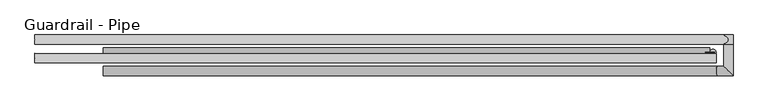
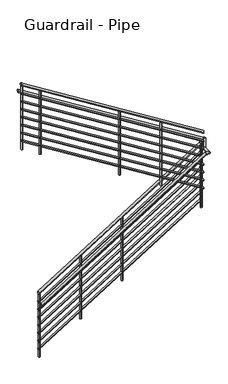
"""IFC4 building model written with IfcOpenShell, lengths in millimetres: railing geometry, Guardrail - Pipe."""

from ifc_helpers import new_model, si_unit, point, frame, frame_2d, origin, place, context, project, spatial, circle_curve, ellipse_curve, trimmed, segment, composite_curve, outline, extrude, faceted_brep, source, transform, mapped, element, save
from ifc_brep_helpers import plane_surface, cylinder_surface, advanced_brep


def guardrail_pipe_d6e5a110(model_context):
    return source(origin(), model_context, "Body", "SolidModel", [
        advanced_brep(
        [(-2631.8939612, 10554.0699505, -2439.0768639), (-2631.8939612, 10515.9699505, -2439.0768639), (-142.6939612, 10554.0699505, -887.367773), (-142.6939612, 10515.9699505, -887.367773)],
        [
            (0, 1, ellipse_curve(frame((-2631.8939612, 10535.0199505, -2439.0768639), z_axis=(-1.0, 0.0, 0.0), x_axis=(0.0, 0.0, -1.0)), 22.4482925, 19.05)),
            (1, 0, ellipse_curve(frame((-2631.8939612, 10535.0199505, -2439.0768639), z_axis=(-1.0, 0.0, 0.0), x_axis=(0.0, 0.0, -1.0)), 22.4482925, 19.05)),
            (2, 3, ellipse_curve(frame((-142.6939612, 10535.0199505, -887.367773), z_axis=(1.0, 0.0, 0.0), x_axis=(0.0, 0.0, -1.0)), 22.4482925, 19.05)),
            (3, 2, ellipse_curve(frame((-142.6939612, 10535.0199505, -887.367773), z_axis=(1.0, 0.0, 0.0), x_axis=(0.0, 0.0, -1.0)), 22.4482925, 19.05)),
            (0, 2),
            (3, 1),
        ],
        [
            plane_surface(frame((-2631.8939612, 10535.0199505, -2416.6285714), z_axis=(-1.0, 0.0, 0.0), x_axis=(0.0, 1.0, 0.0))),
            plane_surface(frame((-142.6939612, 10535.0199505, -864.9194805), z_axis=(1.0, 0.0, 0.0), x_axis=(0.0, 1.0, 0.0))),
            cylinder_surface(frame((-2621.8163602, 10535.0199505, -2432.794723), z_axis=(-0.8486168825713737, 0.0, -0.5290079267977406), x_axis=(0.0, -1.0, 0.0)), 19.05),
        ],
        [
            (0, [[1, 2]]),
            (1, [[3, 4]]),
            (2, [[-1, 5, -4, 6]]),
            (2, [[-2, -6, -3, -5]]),
        ],
    ),
        advanced_brep(
        [(-161.7439612, 10535.0199505, -868.1357143), (-123.6439612, 10535.0199505, -868.1357143), (-161.7439612, 10536.659643, -868.1357143), (-123.6439612, 10536.659643, -868.1357143)],
        [
            (0, 1, circle_curve(frame((-142.6939612, 10535.0199505, -868.1357143), z_axis=(0.0, -1.0, 0.0), x_axis=(1.0, 0.0, 0.0)), 19.05)),
            (1, 0, circle_curve(frame((-142.6939612, 10535.0199505, -868.1357143), z_axis=(0.0, -1.0, 0.0), x_axis=(1.0, 0.0, 0.0)), 19.05)),
            (2, 3, circle_curve(frame((-142.6939612, 10536.659643, -868.1357143), z_axis=(0.0, 1.0, 0.0), x_axis=(1.0, 0.0, 0.0)), 19.05)),
            (3, 2, circle_curve(frame((-142.6939612, 10536.659643, -868.1357143), z_axis=(0.0, 1.0, 0.0), x_axis=(1.0, 0.0, 0.0)), 19.05)),
            (0, 2),
            (3, 1),
        ],
        [
            plane_surface(frame((-142.6939612, 10535.0199505, -849.0857143), z_axis=(0.0, -1.0, 0.0), x_axis=(0.0, 0.0, 1.0))),
            plane_surface(frame((-142.6939612, 10536.659643, -849.0857143), z_axis=(0.0, 1.0, 0.0), x_axis=(0.0, 0.0, 1.0))),
            cylinder_surface(frame((-142.6939612, 10535.0199505, -868.1357143), z_axis=(0.0, -1.0, 0.0), x_axis=(1.0, 0.0, 0.0)), 19.05),
        ],
        [
            (0, [[1, 2]]),
            (1, [[3, 4]]),
            (2, [[-1, 5, -4, 6]]),
            (2, [[-2, -6, -3, -5]]),
        ],
    ),
        advanced_brep(
        [(-117.2939612, 10492.209643, -697.3625782), (-117.2939612, 10530.309643, -697.3625782), (-2911.2939612, 10492.209643, 1044.3517075), (-2911.2939612, 10530.309643, 1044.3517075)],
        [
            (0, 1, ellipse_curve(frame((-117.2939612, 10511.259643, -697.3625782), z_axis=(1.0, 0.0, 0.0), x_axis=(0.0, 0.0, -1.0)), 22.4482925, 19.05)),
            (1, 0, ellipse_curve(frame((-117.2939612, 10511.259643, -697.3625782), z_axis=(1.0, 0.0, 0.0), x_axis=(0.0, 0.0, -1.0)), 22.4482925, 19.05)),
            (2, 3, ellipse_curve(frame((-2911.2939612, 10511.259643, 1044.3517075), z_axis=(-1.0, 0.0, 0.0), x_axis=(0.0, 0.0, -1.0)), 22.4482925, 19.05)),
            (3, 2, ellipse_curve(frame((-2911.2939612, 10511.259643, 1044.3517075), z_axis=(-1.0, 0.0, 0.0), x_axis=(0.0, 0.0, -1.0)), 22.4482925, 19.05)),
            (0, 2),
            (3, 1),
        ],
        [
            plane_surface(frame((-117.2939612, 10511.259643, -674.9142857), z_axis=(1.0, 0.0, 0.0), x_axis=(0.0, -1.0, 0.0))),
            plane_surface(frame((-2911.2939612, 10511.259643, 1066.8), z_axis=(-1.0, 0.0, 0.0), x_axis=(0.0, -1.0, 0.0))),
            cylinder_surface(frame((-127.3715622, 10511.259643, -691.0804373), z_axis=(0.8486168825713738, 0.0, -0.5290079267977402), x_axis=(0.0, 1.0, 0.0)), 19.05),
        ],
        [
            (0, [[1, 2]]),
            (1, [[3, 4]]),
            (2, [[-1, 5, -4, 6]]),
            (2, [[-2, -6, -3, -5]]),
        ],
    ),
        advanced_brep(
        [(-2631.8939612, 10547.7199505, -2583.9940998), (-2631.8939612, 10522.3199505, -2583.9940998), (-142.6939612, 10547.7199505, -1032.2850089), (-142.6939612, 10522.3199505, -1032.2850089)],
        [
            (0, 1, ellipse_curve(frame((-2631.8939612, 10535.0199505, -2583.9940998), z_axis=(-1.0, 0.0, 0.0), x_axis=(0.0, 0.0, -1.0)), 14.9655283, 12.7)),
            (1, 0, ellipse_curve(frame((-2631.8939612, 10535.0199505, -2583.9940998), z_axis=(-1.0, 0.0, 0.0), x_axis=(0.0, 0.0, -1.0)), 14.9655283, 12.7)),
            (2, 3, ellipse_curve(frame((-142.6939612, 10535.0199505, -1032.2850089), z_axis=(1.0, 0.0, 0.0), x_axis=(0.0, 0.0, -1.0)), 14.9655283, 12.7)),
            (3, 2, ellipse_curve(frame((-142.6939612, 10535.0199505, -1032.2850089), z_axis=(1.0, 0.0, 0.0), x_axis=(0.0, 0.0, -1.0)), 14.9655283, 12.7)),
            (0, 2),
            (3, 1),
        ],
        [
            plane_surface(frame((-2631.8939612, 10535.0199505, -2569.0285714), z_axis=(-1.0, 0.0, 0.0), x_axis=(0.0, 1.0, 0.0))),
            plane_surface(frame((-142.6939612, 10535.0199505, -1017.3194805), z_axis=(1.0, 0.0, 0.0), x_axis=(0.0, 1.0, 0.0))),
            cylinder_surface(frame((-2625.1755605, 10535.0199505, -2579.8060058), z_axis=(-0.8486168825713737, 0.0, -0.5290079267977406), x_axis=(0.0, -1.0, 0.0)), 12.7),
        ],
        [
            (0, [[1, 2]]),
            (1, [[3, 4]]),
            (2, [[-1, 5, -4, 6]]),
            (2, [[-2, -6, -3, -5]]),
        ],
    ),
        advanced_brep(
        [(-155.3939612, 10535.0199505, -1014.1857143), (-129.9939612, 10535.0199505, -1014.1857143), (-155.3939612, 10536.659643, -1014.1857143), (-129.9939612, 10536.659643, -1014.1857143)],
        [
            (0, 1, circle_curve(frame((-142.6939612, 10535.0199505, -1014.1857143), z_axis=(0.0, -1.0, 0.0), x_axis=(1.0, 0.0, 0.0)), 12.7)),
            (1, 0, circle_curve(frame((-142.6939612, 10535.0199505, -1014.1857143), z_axis=(0.0, -1.0, 0.0), x_axis=(1.0, 0.0, 0.0)), 12.7)),
            (2, 3, circle_curve(frame((-142.6939612, 10536.659643, -1014.1857143), z_axis=(0.0, 1.0, 0.0), x_axis=(1.0, 0.0, 0.0)), 12.7)),
            (3, 2, circle_curve(frame((-142.6939612, 10536.659643, -1014.1857143), z_axis=(0.0, 1.0, 0.0), x_axis=(1.0, 0.0, 0.0)), 12.7)),
            (0, 2),
            (3, 1),
        ],
        [
            plane_surface(frame((-142.6939612, 10535.0199505, -1001.4857143), z_axis=(0.0, -1.0, 0.0), x_axis=(0.0, 0.0, 1.0))),
            plane_surface(frame((-142.6939612, 10536.659643, -1001.4857143), z_axis=(0.0, 1.0, 0.0), x_axis=(0.0, 0.0, 1.0))),
            cylinder_surface(frame((-142.6939612, 10535.0199505, -1014.1857143), z_axis=(0.0, -1.0, 0.0), x_axis=(1.0, 0.0, 0.0)), 12.7),
        ],
        [
            (0, [[1, 2]]),
            (1, [[3, 4]]),
            (2, [[-1, 5, -4, 6]]),
            (2, [[-2, -6, -3, -5]]),
        ],
    ),
        advanced_brep(
        [(-117.2939612, 10498.559643, -842.279814), (-117.2939612, 10523.959643, -842.279814), (-2911.2939612, 10498.559643, 899.4344717), (-2911.2939612, 10523.959643, 899.4344717)],
        [
            (0, 1, ellipse_curve(frame((-117.2939612, 10511.259643, -842.279814), z_axis=(1.0, 0.0, 0.0), x_axis=(0.0, 0.0, -1.0)), 14.9655283, 12.7)),
            (1, 0, ellipse_curve(frame((-117.2939612, 10511.259643, -842.279814), z_axis=(1.0, 0.0, 0.0), x_axis=(0.0, 0.0, -1.0)), 14.9655283, 12.7)),
            (2, 3, ellipse_curve(frame((-2911.2939612, 10511.259643, 899.4344717), z_axis=(-1.0, 0.0, 0.0), x_axis=(0.0, 0.0, -1.0)), 14.9655283, 12.7)),
            (3, 2, ellipse_curve(frame((-2911.2939612, 10511.259643, 899.4344717), z_axis=(-1.0, 0.0, 0.0), x_axis=(0.0, 0.0, -1.0)), 14.9655283, 12.7)),
            (0, 2),
            (3, 1),
        ],
        [
            plane_surface(frame((-117.2939612, 10511.259643, -827.3142857), z_axis=(1.0, 0.0, 0.0), x_axis=(0.0, -1.0, 0.0))),
            plane_surface(frame((-2911.2939612, 10511.259643, 914.4), z_axis=(-1.0, 0.0, 0.0), x_axis=(0.0, -1.0, 0.0))),
            cylinder_surface(frame((-124.0123619, 10511.259643, -838.0917201), z_axis=(0.8486168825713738, 0.0, -0.5290079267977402), x_axis=(0.0, 1.0, 0.0)), 12.7),
        ],
        [
            (0, [[1, 2]]),
            (1, [[3, 4]]),
            (2, [[-1, 5, -4, 6]]),
            (2, [[-2, -6, -3, -5]]),
        ],
    ),
        advanced_brep(
        [(-2631.8939612, 10477.8699505, -2591.4768639), (-2631.8939612, 10439.7699505, -2591.4768639), (-111.8425336, 10477.8699505, -1020.5357143), (-111.8425336, 10439.7699505, -1020.5357143), (-85.5439612, 10477.8699505, -1020.5357143), (-47.4439612, 10439.7699505, -1020.5357143), (-85.5439612, 10587.459643, -1020.5357143), (-47.4439612, 10587.459643, -1020.5357143)],
        [
            (0, 1, ellipse_curve(frame((-2631.8939612, 10458.8199505, -2591.4768639), z_axis=(-1.0, 0.0, 0.0), x_axis=(0.0, 0.0, -1.0)), 22.4482925, 19.05)),
            (1, 0, ellipse_curve(frame((-2631.8939612, 10458.8199505, -2591.4768639), z_axis=(-1.0, 0.0, 0.0), x_axis=(0.0, 0.0, -1.0)), 22.4482925, 19.05)),
            (0, 2),
            (2, 3, ellipse_curve(frame((-111.8425336, 10458.8199505, -1020.5357143), z_axis=(-0.9614096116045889, 0.0, -0.275120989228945), x_axis=(0.27512098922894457, 0.0, -0.9614096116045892)), 19.8146552, 19.05)),
            (3, 1),
            (3, 2, ellipse_curve(frame((-111.8425336, 10458.8199505, -1020.5357143), z_axis=(-0.9614096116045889, 0.0, -0.275120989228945), x_axis=(0.27512098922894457, 0.0, -0.9614096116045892)), 19.8146552, 19.05)),
            (2, 4),
            (4, 5, ellipse_curve(frame((-66.4939612, 10458.8199505, -1020.5357143), z_axis=(-0.7071067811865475, -0.7071067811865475, 0.0), x_axis=(-0.7071067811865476, 0.7071067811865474, 0.0)), 26.9407684, 19.05)),
            (5, 3),
            (5, 4, ellipse_curve(frame((-66.4939612, 10458.8199505, -1020.5357143), z_axis=(-0.7071067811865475, -0.7071067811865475, 0.0), x_axis=(-0.7071067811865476, 0.7071067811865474, 0.0)), 26.9407684, 19.05)),
            (6, 7, circle_curve(frame((-66.4939612, 10587.459643, -1020.5357143), z_axis=(0.0, 1.0, 0.0), x_axis=(1.0, 0.0, 0.0)), 19.05)),
            (7, 6, circle_curve(frame((-66.4939612, 10587.459643, -1020.5357143), z_axis=(0.0, 1.0, 0.0), x_axis=(1.0, 0.0, 0.0)), 19.05)),
            (4, 6),
            (7, 5),
        ],
        [
            plane_surface(frame((-2631.8939612, 10458.8199505, -2569.0285714), z_axis=(-1.0, 0.0, 0.0), x_axis=(0.0, 1.0, 0.0))),
            cylinder_surface(frame((-2621.8163602, 10458.8199505, -2585.194723), z_axis=(-0.8486168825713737, 0.0, -0.5290079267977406), x_axis=(0.0, -1.0, 0.0)), 19.05),
            cylinder_surface(frame((-117.2939612, 10458.8199505, -1020.5357143), z_axis=(-1.0, 0.0, 0.0), x_axis=(0.0, -1.0, 0.0)), 19.05),
            plane_surface(frame((-66.4939612, 10587.459643, -1001.4857143), z_axis=(0.0, 1.0, 0.0), x_axis=(0.0, 0.0, 1.0))),
            cylinder_surface(frame((-66.4939612, 10458.8199505, -1020.5357143), z_axis=(0.0, -1.0, 0.0), x_axis=(1.0, 0.0, 0.0)), 19.05),
        ],
        [
            (0, [[1, 2]]),
            (1, [[-1, 3, 4, 5]]),
            (1, [[-2, -5, 6, -3]]),
            (2, [[-4, 7, 8, 9]]),
            (2, [[-6, -9, 10, -7]]),
            (3, [[11, 12]]),
            (4, [[-8, 13, -12, 14]]),
            (4, [[-10, -14, -11, -13]]),
        ],
    ),
        faceted_brep([(-85.5439612, 10606.509643, -1039.5857143), (-47.4439612, 10606.509643, -1039.5857143), (-47.4439612, 10568.409643, -1039.5857143), (-85.5439612, 10568.409643, -1039.5857143), (-85.5439612, 10606.509643, -858.9818182), (-85.5439612, 10568.409643, -858.9818182), (-47.4439612, 10568.409643, -858.9818182), (-47.4439612, 10606.509643, -858.9818182)], [[[0, 1, 2, 3]], [[4, 5, 6, 7]], [[1, 0, 4, 7]], [[2, 1, 7, 6]], [[3, 2, 6, 5]], [[0, 3, 5, 4]]]),
        advanced_brep(
        [(-66.4939612, 10568.409643, -881.4301107), (-66.4939612, 10606.509643, -881.4301107), (-2911.2939612, 10568.409643, 891.9517075), (-2911.2939612, 10606.509643, 891.9517075)],
        [
            (0, 1, ellipse_curve(frame((-66.4939612, 10587.459643, -881.4301107), z_axis=(1.0, 0.0, 0.0), x_axis=(0.0, 0.0, -1.0)), 22.4482925, 19.05)),
            (1, 0, ellipse_curve(frame((-66.4939612, 10587.459643, -881.4301107), z_axis=(1.0, 0.0, 0.0), x_axis=(0.0, 0.0, -1.0)), 22.4482925, 19.05)),
            (2, 3, ellipse_curve(frame((-2911.2939612, 10587.459643, 891.9517075), z_axis=(-1.0, 0.0, 0.0), x_axis=(0.0, 0.0, -1.0)), 22.4482925, 19.05)),
            (3, 2, ellipse_curve(frame((-2911.2939612, 10587.459643, 891.9517075), z_axis=(-1.0, 0.0, 0.0), x_axis=(0.0, 0.0, -1.0)), 22.4482925, 19.05)),
            (0, 2),
            (3, 1),
        ],
        [
            plane_surface(frame((-66.4939612, 10587.459643, -858.9818182), z_axis=(1.0, 0.0, 0.0), x_axis=(0.0, -1.0, 0.0))),
            plane_surface(frame((-2911.2939612, 10587.459643, 914.4), z_axis=(-1.0, 0.0, 0.0), x_axis=(0.0, -1.0, 0.0))),
            cylinder_surface(frame((-76.5715622, 10587.459643, -875.1479698), z_axis=(0.8486168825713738, 0.0, -0.5290079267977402), x_axis=(0.0, 1.0, 0.0)), 19.05),
        ],
        [
            (0, [[1, 2]]),
            (1, [[3, 4]]),
            (2, [[-1, 5, -4, 6]]),
            (2, [[-2, -6, -3, -5]]),
        ],
    ),
        advanced_brep(
        [(-2631.8939612, 10547.7199505, -2710.9940998), (-2631.8939612, 10522.3199505, -2710.9940998), (-142.6939612, 10547.7199505, -1159.2850089), (-142.6939612, 10522.3199505, -1159.2850089)],
        [
            (0, 1, ellipse_curve(frame((-2631.8939612, 10535.0199505, -2710.9940998), z_axis=(-1.0, 0.0, 0.0), x_axis=(0.0, 0.0, -1.0)), 14.9655283, 12.7)),
            (1, 0, ellipse_curve(frame((-2631.8939612, 10535.0199505, -2710.9940998), z_axis=(-1.0, 0.0, 0.0), x_axis=(0.0, 0.0, -1.0)), 14.9655283, 12.7)),
            (2, 3, ellipse_curve(frame((-142.6939612, 10535.0199505, -1159.2850089), z_axis=(1.0, 0.0, 0.0), x_axis=(0.0, 0.0, -1.0)), 14.9655283, 12.7)),
            (3, 2, ellipse_curve(frame((-142.6939612, 10535.0199505, -1159.2850089), z_axis=(1.0, 0.0, 0.0), x_axis=(0.0, 0.0, -1.0)), 14.9655283, 12.7)),
            (0, 2),
            (3, 1),
        ],
        [
            plane_surface(frame((-2631.8939612, 10535.0199505, -2696.0285714), z_axis=(-1.0, 0.0, 0.0), x_axis=(0.0, 1.0, 0.0))),
            plane_surface(frame((-142.6939612, 10535.0199505, -1144.3194805), z_axis=(1.0, 0.0, 0.0), x_axis=(0.0, 1.0, 0.0))),
            cylinder_surface(frame((-2625.1755605, 10535.0199505, -2706.8060058), z_axis=(-0.8486168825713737, 0.0, -0.5290079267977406), x_axis=(0.0, -1.0, 0.0)), 12.7),
        ],
        [
            (0, [[1, 2]]),
            (1, [[3, 4]]),
            (2, [[-1, 5, -4, 6]]),
            (2, [[-2, -6, -3, -5]]),
        ],
    ),
        advanced_brep(
        [(-155.3939612, 10535.0199505, -1141.1857143), (-129.9939612, 10535.0199505, -1141.1857143), (-155.3939612, 10536.659643, -1141.1857143), (-129.9939612, 10536.659643, -1141.1857143)],
        [
            (0, 1, circle_curve(frame((-142.6939612, 10535.0199505, -1141.1857143), z_axis=(0.0, -1.0, 0.0), x_axis=(1.0, 0.0, 0.0)), 12.7)),
            (1, 0, circle_curve(frame((-142.6939612, 10535.0199505, -1141.1857143), z_axis=(0.0, -1.0, 0.0), x_axis=(1.0, 0.0, 0.0)), 12.7)),
            (2, 3, circle_curve(frame((-142.6939612, 10536.659643, -1141.1857143), z_axis=(0.0, 1.0, 0.0), x_axis=(1.0, 0.0, 0.0)), 12.7)),
            (3, 2, circle_curve(frame((-142.6939612, 10536.659643, -1141.1857143), z_axis=(0.0, 1.0, 0.0), x_axis=(1.0, 0.0, 0.0)), 12.7)),
            (0, 2),
            (3, 1),
        ],
        [
            plane_surface(frame((-142.6939612, 10535.0199505, -1128.4857143), z_axis=(0.0, -1.0, 0.0), x_axis=(0.0, 0.0, 1.0))),
            plane_surface(frame((-142.6939612, 10536.659643, -1128.4857143), z_axis=(0.0, 1.0, 0.0), x_axis=(0.0, 0.0, 1.0))),
            cylinder_surface(frame((-142.6939612, 10535.0199505, -1141.1857143), z_axis=(0.0, -1.0, 0.0), x_axis=(1.0, 0.0, 0.0)), 12.7),
        ],
        [
            (0, [[1, 2]]),
            (1, [[3, 4]]),
            (2, [[-1, 5, -4, 6]]),
            (2, [[-2, -6, -3, -5]]),
        ],
    ),
        advanced_brep(
        [(-117.2939612, 10498.559643, -969.279814), (-117.2939612, 10523.959643, -969.279814), (-2911.2939612, 10498.559643, 772.4344717), (-2911.2939612, 10523.959643, 772.4344717)],
        [
            (0, 1, ellipse_curve(frame((-117.2939612, 10511.259643, -969.279814), z_axis=(1.0, 0.0, 0.0), x_axis=(0.0, 0.0, -1.0)), 14.9655283, 12.7)),
            (1, 0, ellipse_curve(frame((-117.2939612, 10511.259643, -969.279814), z_axis=(1.0, 0.0, 0.0), x_axis=(0.0, 0.0, -1.0)), 14.9655283, 12.7)),
            (2, 3, ellipse_curve(frame((-2911.2939612, 10511.259643, 772.4344717), z_axis=(-1.0, 0.0, 0.0), x_axis=(0.0, 0.0, -1.0)), 14.9655283, 12.7)),
            (3, 2, ellipse_curve(frame((-2911.2939612, 10511.259643, 772.4344717), z_axis=(-1.0, 0.0, 0.0), x_axis=(0.0, 0.0, -1.0)), 14.9655283, 12.7)),
            (0, 2),
            (3, 1),
        ],
        [
            plane_surface(frame((-117.2939612, 10511.259643, -954.3142857), z_axis=(1.0, 0.0, 0.0), x_axis=(0.0, -1.0, 0.0))),
            plane_surface(frame((-2911.2939612, 10511.259643, 787.4), z_axis=(-1.0, 0.0, 0.0), x_axis=(0.0, -1.0, 0.0))),
            cylinder_surface(frame((-124.0123619, 10511.259643, -965.0917201), z_axis=(0.8486168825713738, 0.0, -0.5290079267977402), x_axis=(0.0, 1.0, 0.0)), 12.7),
        ],
        [
            (0, [[1, 2]]),
            (1, [[3, 4]]),
            (2, [[-1, 5, -4, 6]]),
            (2, [[-2, -6, -3, -5]]),
        ],
    ),
        advanced_brep(
        [(-2631.8939612, 10547.7199505, -2837.9940998), (-2631.8939612, 10522.3199505, -2837.9940998), (-142.6939612, 10547.7199505, -1286.2850089), (-142.6939612, 10522.3199505, -1286.2850089)],
        [
            (0, 1, ellipse_curve(frame((-2631.8939612, 10535.0199505, -2837.9940998), z_axis=(-1.0, 0.0, 0.0), x_axis=(0.0, 0.0, -1.0)), 14.9655283, 12.7)),
            (1, 0, ellipse_curve(frame((-2631.8939612, 10535.0199505, -2837.9940998), z_axis=(-1.0, 0.0, 0.0), x_axis=(0.0, 0.0, -1.0)), 14.9655283, 12.7)),
            (2, 3, ellipse_curve(frame((-142.6939612, 10535.0199505, -1286.2850089), z_axis=(1.0, 0.0, 0.0), x_axis=(0.0, 0.0, -1.0)), 14.9655283, 12.7)),
            (3, 2, ellipse_curve(frame((-142.6939612, 10535.0199505, -1286.2850089), z_axis=(1.0, 0.0, 0.0), x_axis=(0.0, 0.0, -1.0)), 14.9655283, 12.7)),
            (0, 2),
            (3, 1),
        ],
        [
            plane_surface(frame((-2631.8939612, 10535.0199505, -2823.0285714), z_axis=(-1.0, 0.0, 0.0), x_axis=(0.0, 1.0, 0.0))),
            plane_surface(frame((-142.6939612, 10535.0199505, -1271.3194805), z_axis=(1.0, 0.0, 0.0), x_axis=(0.0, 1.0, 0.0))),
            cylinder_surface(frame((-2625.1755605, 10535.0199505, -2833.8060058), z_axis=(-0.8486168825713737, 0.0, -0.5290079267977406), x_axis=(0.0, -1.0, 0.0)), 12.7),
        ],
        [
            (0, [[1, 2]]),
            (1, [[3, 4]]),
            (2, [[-1, 5, -4, 6]]),
            (2, [[-2, -6, -3, -5]]),
        ],
    ),
        advanced_brep(
        [(-155.3939612, 10535.0199505, -1268.1857143), (-129.9939612, 10535.0199505, -1268.1857143), (-155.3939612, 10536.659643, -1268.1857143), (-129.9939612, 10536.659643, -1268.1857143)],
        [
            (0, 1, circle_curve(frame((-142.6939612, 10535.0199505, -1268.1857143), z_axis=(0.0, -1.0, 0.0), x_axis=(1.0, 0.0, 0.0)), 12.7)),
            (1, 0, circle_curve(frame((-142.6939612, 10535.0199505, -1268.1857143), z_axis=(0.0, -1.0, 0.0), x_axis=(1.0, 0.0, 0.0)), 12.7)),
            (2, 3, circle_curve(frame((-142.6939612, 10536.659643, -1268.1857143), z_axis=(0.0, 1.0, 0.0), x_axis=(1.0, 0.0, 0.0)), 12.7)),
            (3, 2, circle_curve(frame((-142.6939612, 10536.659643, -1268.1857143), z_axis=(0.0, 1.0, 0.0), x_axis=(1.0, 0.0, 0.0)), 12.7)),
            (0, 2),
            (3, 1),
        ],
        [
            plane_surface(frame((-142.6939612, 10535.0199505, -1255.4857143), z_axis=(0.0, -1.0, 0.0), x_axis=(0.0, 0.0, 1.0))),
            plane_surface(frame((-142.6939612, 10536.659643, -1255.4857143), z_axis=(0.0, 1.0, 0.0), x_axis=(0.0, 0.0, 1.0))),
            cylinder_surface(frame((-142.6939612, 10535.0199505, -1268.1857143), z_axis=(0.0, -1.0, 0.0), x_axis=(1.0, 0.0, 0.0)), 12.7),
        ],
        [
            (0, [[1, 2]]),
            (1, [[3, 4]]),
            (2, [[-1, 5, -4, 6]]),
            (2, [[-2, -6, -3, -5]]),
        ],
    ),
        advanced_brep(
        [(-117.2939612, 10498.559643, -1096.279814), (-117.2939612, 10523.959643, -1096.279814), (-2911.2939612, 10498.559643, 645.4344717), (-2911.2939612, 10523.959643, 645.4344717)],
        [
            (0, 1, ellipse_curve(frame((-117.2939612, 10511.259643, -1096.279814), z_axis=(1.0, 0.0, 0.0), x_axis=(0.0, 0.0, -1.0)), 14.9655283, 12.7)),
            (1, 0, ellipse_curve(frame((-117.2939612, 10511.259643, -1096.279814), z_axis=(1.0, 0.0, 0.0), x_axis=(0.0, 0.0, -1.0)), 14.9655283, 12.7)),
            (2, 3, ellipse_curve(frame((-2911.2939612, 10511.259643, 645.4344717), z_axis=(-1.0, 0.0, 0.0), x_axis=(0.0, 0.0, -1.0)), 14.9655283, 12.7)),
            (3, 2, ellipse_curve(frame((-2911.2939612, 10511.259643, 645.4344717), z_axis=(-1.0, 0.0, 0.0), x_axis=(0.0, 0.0, -1.0)), 14.9655283, 12.7)),
            (0, 2),
            (3, 1),
        ],
        [
            plane_surface(frame((-117.2939612, 10511.259643, -1081.3142857), z_axis=(1.0, 0.0, 0.0), x_axis=(0.0, -1.0, 0.0))),
            plane_surface(frame((-2911.2939612, 10511.259643, 660.4), z_axis=(-1.0, 0.0, 0.0), x_axis=(0.0, -1.0, 0.0))),
            cylinder_surface(frame((-124.0123619, 10511.259643, -1092.0917201), z_axis=(0.8486168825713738, 0.0, -0.5290079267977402), x_axis=(0.0, 1.0, 0.0)), 12.7),
        ],
        [
            (0, [[1, 2]]),
            (1, [[3, 4]]),
            (2, [[-1, 5, -4, 6]]),
            (2, [[-2, -6, -3, -5]]),
        ],
    ),
        advanced_brep(
        [(-2631.8939612, 10547.7199505, -2964.9940998), (-2631.8939612, 10522.3199505, -2964.9940998), (-142.6939612, 10547.7199505, -1413.2850089), (-142.6939612, 10522.3199505, -1413.2850089)],
        [
            (0, 1, ellipse_curve(frame((-2631.8939612, 10535.0199505, -2964.9940998), z_axis=(-1.0, 0.0, 0.0), x_axis=(0.0, 0.0, -1.0)), 14.9655283, 12.7)),
            (1, 0, ellipse_curve(frame((-2631.8939612, 10535.0199505, -2964.9940998), z_axis=(-1.0, 0.0, 0.0), x_axis=(0.0, 0.0, -1.0)), 14.9655283, 12.7)),
            (2, 3, ellipse_curve(frame((-142.6939612, 10535.0199505, -1413.2850089), z_axis=(1.0, 0.0, 0.0), x_axis=(0.0, 0.0, -1.0)), 14.9655283, 12.7)),
            (3, 2, ellipse_curve(frame((-142.6939612, 10535.0199505, -1413.2850089), z_axis=(1.0, 0.0, 0.0), x_axis=(0.0, 0.0, -1.0)), 14.9655283, 12.7)),
            (0, 2),
            (3, 1),
        ],
        [
            plane_surface(frame((-2631.8939612, 10535.0199505, -2950.0285714), z_axis=(-1.0, 0.0, 0.0), x_axis=(0.0, 1.0, 0.0))),
            plane_surface(frame((-142.6939612, 10535.0199505, -1398.3194805), z_axis=(1.0, 0.0, 0.0), x_axis=(0.0, 1.0, 0.0))),
            cylinder_surface(frame((-2625.1755605, 10535.0199505, -2960.8060058), z_axis=(-0.8486168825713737, 0.0, -0.5290079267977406), x_axis=(0.0, -1.0, 0.0)), 12.7),
        ],
        [
            (0, [[1, 2]]),
            (1, [[3, 4]]),
            (2, [[-1, 5, -4, 6]]),
            (2, [[-2, -6, -3, -5]]),
        ],
    ),
        advanced_brep(
        [(-155.3939612, 10535.0199505, -1395.1857143), (-129.9939612, 10535.0199505, -1395.1857143), (-155.3939612, 10536.659643, -1395.1857143), (-129.9939612, 10536.659643, -1395.1857143)],
        [
            (0, 1, circle_curve(frame((-142.6939612, 10535.0199505, -1395.1857143), z_axis=(0.0, -1.0, 0.0), x_axis=(1.0, 0.0, 0.0)), 12.7)),
            (1, 0, circle_curve(frame((-142.6939612, 10535.0199505, -1395.1857143), z_axis=(0.0, -1.0, 0.0), x_axis=(1.0, 0.0, 0.0)), 12.7)),
            (2, 3, circle_curve(frame((-142.6939612, 10536.659643, -1395.1857143), z_axis=(0.0, 1.0, 0.0), x_axis=(1.0, 0.0, 0.0)), 12.7)),
            (3, 2, circle_curve(frame((-142.6939612, 10536.659643, -1395.1857143), z_axis=(0.0, 1.0, 0.0), x_axis=(1.0, 0.0, 0.0)), 12.7)),
            (0, 2),
            (3, 1),
        ],
        [
            plane_surface(frame((-142.6939612, 10535.0199505, -1382.4857143), z_axis=(0.0, -1.0, 0.0), x_axis=(0.0, 0.0, 1.0))),
            plane_surface(frame((-142.6939612, 10536.659643, -1382.4857143), z_axis=(0.0, 1.0, 0.0), x_axis=(0.0, 0.0, 1.0))),
            cylinder_surface(frame((-142.6939612, 10535.0199505, -1395.1857143), z_axis=(0.0, -1.0, 0.0), x_axis=(1.0, 0.0, 0.0)), 12.7),
        ],
        [
            (0, [[1, 2]]),
            (1, [[3, 4]]),
            (2, [[-1, 5, -4, 6]]),
            (2, [[-2, -6, -3, -5]]),
        ],
    ),
        advanced_brep(
        [(-117.2939612, 10498.559643, -1223.279814), (-117.2939612, 10523.959643, -1223.279814), (-2911.2939612, 10498.559643, 518.4344717), (-2911.2939612, 10523.959643, 518.4344717)],
        [
            (0, 1, ellipse_curve(frame((-117.2939612, 10511.259643, -1223.279814), z_axis=(1.0, 0.0, 0.0), x_axis=(0.0, 0.0, -1.0)), 14.9655283, 12.7)),
            (1, 0, ellipse_curve(frame((-117.2939612, 10511.259643, -1223.279814), z_axis=(1.0, 0.0, 0.0), x_axis=(0.0, 0.0, -1.0)), 14.9655283, 12.7)),
            (2, 3, ellipse_curve(frame((-2911.2939612, 10511.259643, 518.4344717), z_axis=(-1.0, 0.0, 0.0), x_axis=(0.0, 0.0, -1.0)), 14.9655283, 12.7)),
            (3, 2, ellipse_curve(frame((-2911.2939612, 10511.259643, 518.4344717), z_axis=(-1.0, 0.0, 0.0), x_axis=(0.0, 0.0, -1.0)), 14.9655283, 12.7)),
            (0, 2),
            (3, 1),
        ],
        [
            plane_surface(frame((-117.2939612, 10511.259643, -1208.3142857), z_axis=(1.0, 0.0, 0.0), x_axis=(0.0, -1.0, 0.0))),
            plane_surface(frame((-2911.2939612, 10511.259643, 533.4), z_axis=(-1.0, 0.0, 0.0), x_axis=(0.0, -1.0, 0.0))),
            cylinder_surface(frame((-124.0123619, 10511.259643, -1219.0917201), z_axis=(0.8486168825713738, 0.0, -0.5290079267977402), x_axis=(0.0, 1.0, 0.0)), 12.7),
        ],
        [
            (0, [[1, 2]]),
            (1, [[3, 4]]),
            (2, [[-1, 5, -4, 6]]),
            (2, [[-2, -6, -3, -5]]),
        ],
    ),
        advanced_brep(
        [(-2631.8939612, 10547.7199505, -3091.9940998), (-2631.8939612, 10522.3199505, -3091.9940998), (-142.6939612, 10547.7199505, -1540.2850089), (-142.6939612, 10522.3199505, -1540.2850089)],
        [
            (0, 1, ellipse_curve(frame((-2631.8939612, 10535.0199505, -3091.9940998), z_axis=(-1.0, 0.0, 0.0), x_axis=(0.0, 0.0, -1.0)), 14.9655283, 12.7)),
            (1, 0, ellipse_curve(frame((-2631.8939612, 10535.0199505, -3091.9940998), z_axis=(-1.0, 0.0, 0.0), x_axis=(0.0, 0.0, -1.0)), 14.9655283, 12.7)),
            (2, 3, ellipse_curve(frame((-142.6939612, 10535.0199505, -1540.2850089), z_axis=(1.0, 0.0, 0.0), x_axis=(0.0, 0.0, -1.0)), 14.9655283, 12.7)),
            (3, 2, ellipse_curve(frame((-142.6939612, 10535.0199505, -1540.2850089), z_axis=(1.0, 0.0, 0.0), x_axis=(0.0, 0.0, -1.0)), 14.9655283, 12.7)),
            (0, 2),
            (3, 1),
        ],
        [
            plane_surface(frame((-2631.8939612, 10535.0199505, -3077.0285714), z_axis=(-1.0, 0.0, 0.0), x_axis=(0.0, 1.0, 0.0))),
            plane_surface(frame((-142.6939612, 10535.0199505, -1525.3194805), z_axis=(1.0, 0.0, 0.0), x_axis=(0.0, 1.0, 0.0))),
            cylinder_surface(frame((-2625.1755605, 10535.0199505, -3087.8060058), z_axis=(-0.8486168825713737, 0.0, -0.5290079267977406), x_axis=(0.0, -1.0, 0.0)), 12.7),
        ],
        [
            (0, [[1, 2]]),
            (1, [[3, 4]]),
            (2, [[-1, 5, -4, 6]]),
            (2, [[-2, -6, -3, -5]]),
        ],
    ),
        advanced_brep(
        [(-155.3939612, 10535.0199505, -1522.1857143), (-129.9939612, 10535.0199505, -1522.1857143), (-155.3939612, 10536.659643, -1522.1857143), (-129.9939612, 10536.659643, -1522.1857143)],
        [
            (0, 1, circle_curve(frame((-142.6939612, 10535.0199505, -1522.1857143), z_axis=(0.0, -1.0, 0.0), x_axis=(1.0, 0.0, 0.0)), 12.7)),
            (1, 0, circle_curve(frame((-142.6939612, 10535.0199505, -1522.1857143), z_axis=(0.0, -1.0, 0.0), x_axis=(1.0, 0.0, 0.0)), 12.7)),
            (2, 3, circle_curve(frame((-142.6939612, 10536.659643, -1522.1857143), z_axis=(0.0, 1.0, 0.0), x_axis=(1.0, 0.0, 0.0)), 12.7)),
            (3, 2, circle_curve(frame((-142.6939612, 10536.659643, -1522.1857143), z_axis=(0.0, 1.0, 0.0), x_axis=(1.0, 0.0, 0.0)), 12.7)),
            (0, 2),
            (3, 1),
        ],
        [
            plane_surface(frame((-142.6939612, 10535.0199505, -1509.4857143), z_axis=(0.0, -1.0, 0.0), x_axis=(0.0, 0.0, 1.0))),
            plane_surface(frame((-142.6939612, 10536.659643, -1509.4857143), z_axis=(0.0, 1.0, 0.0), x_axis=(0.0, 0.0, 1.0))),
            cylinder_surface(frame((-142.6939612, 10535.0199505, -1522.1857143), z_axis=(0.0, -1.0, 0.0), x_axis=(1.0, 0.0, 0.0)), 12.7),
        ],
        [
            (0, [[1, 2]]),
            (1, [[3, 4]]),
            (2, [[-1, 5, -4, 6]]),
            (2, [[-2, -6, -3, -5]]),
        ],
    ),
        advanced_brep(
        [(-117.2939612, 10498.559643, -1350.279814), (-117.2939612, 10523.959643, -1350.279814), (-2911.2939612, 10498.559643, 391.4344717), (-2911.2939612, 10523.959643, 391.4344717)],
        [
            (0, 1, ellipse_curve(frame((-117.2939612, 10511.259643, -1350.279814), z_axis=(1.0, 0.0, 0.0), x_axis=(0.0, 0.0, -1.0)), 14.9655283, 12.7)),
            (1, 0, ellipse_curve(frame((-117.2939612, 10511.259643, -1350.279814), z_axis=(1.0, 0.0, 0.0), x_axis=(0.0, 0.0, -1.0)), 14.9655283, 12.7)),
            (2, 3, ellipse_curve(frame((-2911.2939612, 10511.259643, 391.4344717), z_axis=(-1.0, 0.0, 0.0), x_axis=(0.0, 0.0, -1.0)), 14.9655283, 12.7)),
            (3, 2, ellipse_curve(frame((-2911.2939612, 10511.259643, 391.4344717), z_axis=(-1.0, 0.0, 0.0), x_axis=(0.0, 0.0, -1.0)), 14.9655283, 12.7)),
            (0, 2),
            (3, 1),
        ],
        [
            plane_surface(frame((-117.2939612, 10511.259643, -1335.3142857), z_axis=(1.0, 0.0, 0.0), x_axis=(0.0, -1.0, 0.0))),
            plane_surface(frame((-2911.2939612, 10511.259643, 406.4), z_axis=(-1.0, 0.0, 0.0), x_axis=(0.0, -1.0, 0.0))),
            cylinder_surface(frame((-124.0123619, 10511.259643, -1346.0917201), z_axis=(0.8486168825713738, 0.0, -0.5290079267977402), x_axis=(0.0, 1.0, 0.0)), 12.7),
        ],
        [
            (0, [[1, 2]]),
            (1, [[3, 4]]),
            (2, [[-1, 5, -4, 6]]),
            (2, [[-2, -6, -3, -5]]),
        ],
    ),
        advanced_brep(
        [(-2631.8939612, 10547.7199505, -3218.9940998), (-2631.8939612, 10522.3199505, -3218.9940998), (-142.6939612, 10547.7199505, -1667.2850089), (-142.6939612, 10522.3199505, -1667.2850089)],
        [
            (0, 1, ellipse_curve(frame((-2631.8939612, 10535.0199505, -3218.9940998), z_axis=(-1.0, 0.0, 0.0), x_axis=(0.0, 0.0, -1.0)), 14.9655283, 12.7)),
            (1, 0, ellipse_curve(frame((-2631.8939612, 10535.0199505, -3218.9940998), z_axis=(-1.0, 0.0, 0.0), x_axis=(0.0, 0.0, -1.0)), 14.9655283, 12.7)),
            (2, 3, ellipse_curve(frame((-142.6939612, 10535.0199505, -1667.2850089), z_axis=(1.0, 0.0, 0.0), x_axis=(0.0, 0.0, -1.0)), 14.9655283, 12.7)),
            (3, 2, ellipse_curve(frame((-142.6939612, 10535.0199505, -1667.2850089), z_axis=(1.0, 0.0, 0.0), x_axis=(0.0, 0.0, -1.0)), 14.9655283, 12.7)),
            (0, 2),
            (3, 1),
        ],
        [
            plane_surface(frame((-2631.8939612, 10535.0199505, -3204.0285714), z_axis=(-1.0, 0.0, 0.0), x_axis=(0.0, 1.0, 0.0))),
            plane_surface(frame((-142.6939612, 10535.0199505, -1652.3194805), z_axis=(1.0, 0.0, 0.0), x_axis=(0.0, 1.0, 0.0))),
            cylinder_surface(frame((-2625.1755605, 10535.0199505, -3214.8060058), z_axis=(-0.8486168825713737, 0.0, -0.5290079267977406), x_axis=(0.0, -1.0, 0.0)), 12.7),
        ],
        [
            (0, [[1, 2]]),
            (1, [[3, 4]]),
            (2, [[-1, 5, -4, 6]]),
            (2, [[-2, -6, -3, -5]]),
        ],
    ),
        advanced_brep(
        [(-155.3939612, 10535.0199505, -1649.1857143), (-129.9939612, 10535.0199505, -1649.1857143), (-155.3939612, 10536.659643, -1649.1857143), (-129.9939612, 10536.659643, -1649.1857143)],
        [
            (0, 1, circle_curve(frame((-142.6939612, 10535.0199505, -1649.1857143), z_axis=(0.0, -1.0, 0.0), x_axis=(1.0, 0.0, 0.0)), 12.7)),
            (1, 0, circle_curve(frame((-142.6939612, 10535.0199505, -1649.1857143), z_axis=(0.0, -1.0, 0.0), x_axis=(1.0, 0.0, 0.0)), 12.7)),
            (2, 3, circle_curve(frame((-142.6939612, 10536.659643, -1649.1857143), z_axis=(0.0, 1.0, 0.0), x_axis=(1.0, 0.0, 0.0)), 12.7)),
            (3, 2, circle_curve(frame((-142.6939612, 10536.659643, -1649.1857143), z_axis=(0.0, 1.0, 0.0), x_axis=(1.0, 0.0, 0.0)), 12.7)),
            (0, 2),
            (3, 1),
        ],
        [
            plane_surface(frame((-142.6939612, 10535.0199505, -1636.4857143), z_axis=(0.0, -1.0, 0.0), x_axis=(0.0, 0.0, 1.0))),
            plane_surface(frame((-142.6939612, 10536.659643, -1636.4857143), z_axis=(0.0, 1.0, 0.0), x_axis=(0.0, 0.0, 1.0))),
            cylinder_surface(frame((-142.6939612, 10535.0199505, -1649.1857143), z_axis=(0.0, -1.0, 0.0), x_axis=(1.0, 0.0, 0.0)), 12.7),
        ],
        [
            (0, [[1, 2]]),
            (1, [[3, 4]]),
            (2, [[-1, 5, -4, 6]]),
            (2, [[-2, -6, -3, -5]]),
        ],
    ),
        advanced_brep(
        [(-117.2939612, 10498.559643, -1477.279814), (-117.2939612, 10523.959643, -1477.279814), (-2911.2939612, 10498.559643, 264.4344717), (-2911.2939612, 10523.959643, 264.4344717)],
        [
            (0, 1, ellipse_curve(frame((-117.2939612, 10511.259643, -1477.279814), z_axis=(1.0, 0.0, 0.0), x_axis=(0.0, 0.0, -1.0)), 14.9655283, 12.7)),
            (1, 0, ellipse_curve(frame((-117.2939612, 10511.259643, -1477.279814), z_axis=(1.0, 0.0, 0.0), x_axis=(0.0, 0.0, -1.0)), 14.9655283, 12.7)),
            (2, 3, ellipse_curve(frame((-2911.2939612, 10511.259643, 264.4344717), z_axis=(-1.0, 0.0, 0.0), x_axis=(0.0, 0.0, -1.0)), 14.9655283, 12.7)),
            (3, 2, ellipse_curve(frame((-2911.2939612, 10511.259643, 264.4344717), z_axis=(-1.0, 0.0, 0.0), x_axis=(0.0, 0.0, -1.0)), 14.9655283, 12.7)),
            (0, 2),
            (3, 1),
        ],
        [
            plane_surface(frame((-117.2939612, 10511.259643, -1462.3142857), z_axis=(1.0, 0.0, 0.0), x_axis=(0.0, -1.0, 0.0))),
            plane_surface(frame((-2911.2939612, 10511.259643, 279.4), z_axis=(-1.0, 0.0, 0.0), x_axis=(0.0, -1.0, 0.0))),
            cylinder_surface(frame((-124.0123619, 10511.259643, -1473.0917201), z_axis=(0.8486168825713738, 0.0, -0.5290079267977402), x_axis=(0.0, 1.0, 0.0)), 12.7),
        ],
        [
            (0, [[1, 2]]),
            (1, [[3, 4]]),
            (2, [[-1, 5, -4, 6]]),
            (2, [[-2, -6, -3, -5]]),
        ],
    ),
        advanced_brep(
        [(-2631.8939612, 10547.7199505, -3345.9940998), (-2631.8939612, 10522.3199505, -3345.9940998), (-142.6939612, 10547.7199505, -1794.2850089), (-142.6939612, 10522.3199505, -1794.2850089)],
        [
            (0, 1, ellipse_curve(frame((-2631.8939612, 10535.0199505, -3345.9940998), z_axis=(-1.0, 0.0, 0.0), x_axis=(0.0, 0.0, -1.0)), 14.9655283, 12.7)),
            (1, 0, ellipse_curve(frame((-2631.8939612, 10535.0199505, -3345.9940998), z_axis=(-1.0, 0.0, 0.0), x_axis=(0.0, 0.0, -1.0)), 14.9655283, 12.7)),
            (2, 3, ellipse_curve(frame((-142.6939612, 10535.0199505, -1794.2850089), z_axis=(1.0, 0.0, 0.0), x_axis=(0.0, 0.0, -1.0)), 14.9655283, 12.7)),
            (3, 2, ellipse_curve(frame((-142.6939612, 10535.0199505, -1794.2850089), z_axis=(1.0, 0.0, 0.0), x_axis=(0.0, 0.0, -1.0)), 14.9655283, 12.7)),
            (0, 2),
            (3, 1),
        ],
        [
            plane_surface(frame((-2631.8939612, 10535.0199505, -3331.0285714), z_axis=(-1.0, 0.0, 0.0), x_axis=(0.0, 1.0, 0.0))),
            plane_surface(frame((-142.6939612, 10535.0199505, -1779.3194805), z_axis=(1.0, 0.0, 0.0), x_axis=(0.0, 1.0, 0.0))),
            cylinder_surface(frame((-2625.1755605, 10535.0199505, -3341.8060058), z_axis=(-0.8486168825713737, 0.0, -0.5290079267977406), x_axis=(0.0, -1.0, 0.0)), 12.7),
        ],
        [
            (0, [[1, 2]]),
            (1, [[3, 4]]),
            (2, [[-1, 5, -4, 6]]),
            (2, [[-2, -6, -3, -5]]),
        ],
    ),
        advanced_brep(
        [(-155.3939612, 10535.0199505, -1776.1857143), (-129.9939612, 10535.0199505, -1776.1857143), (-155.3939612, 10536.659643, -1776.1857143), (-129.9939612, 10536.659643, -1776.1857143)],
        [
            (0, 1, circle_curve(frame((-142.6939612, 10535.0199505, -1776.1857143), z_axis=(0.0, -1.0, 0.0), x_axis=(1.0, 0.0, 0.0)), 12.7)),
            (1, 0, circle_curve(frame((-142.6939612, 10535.0199505, -1776.1857143), z_axis=(0.0, -1.0, 0.0), x_axis=(1.0, 0.0, 0.0)), 12.7)),
            (2, 3, circle_curve(frame((-142.6939612, 10536.659643, -1776.1857143), z_axis=(0.0, 1.0, 0.0), x_axis=(1.0, 0.0, 0.0)), 12.7)),
            (3, 2, circle_curve(frame((-142.6939612, 10536.659643, -1776.1857143), z_axis=(0.0, 1.0, 0.0), x_axis=(1.0, 0.0, 0.0)), 12.7)),
            (0, 2),
            (3, 1),
        ],
        [
            plane_surface(frame((-142.6939612, 10535.0199505, -1763.4857143), z_axis=(0.0, -1.0, 0.0), x_axis=(0.0, 0.0, 1.0))),
            plane_surface(frame((-142.6939612, 10536.659643, -1763.4857143), z_axis=(0.0, 1.0, 0.0), x_axis=(0.0, 0.0, 1.0))),
            cylinder_surface(frame((-142.6939612, 10535.0199505, -1776.1857143), z_axis=(0.0, -1.0, 0.0), x_axis=(1.0, 0.0, 0.0)), 12.7),
        ],
        [
            (0, [[1, 2]]),
            (1, [[3, 4]]),
            (2, [[-1, 5, -4, 6]]),
            (2, [[-2, -6, -3, -5]]),
        ],
    ),
        advanced_brep(
        [(-117.2939612, 10498.559643, -1604.279814), (-117.2939612, 10523.959643, -1604.279814), (-2911.2939612, 10498.559643, 137.4344717), (-2911.2939612, 10523.959643, 137.4344717)],
        [
            (0, 1, ellipse_curve(frame((-117.2939612, 10511.259643, -1604.279814), z_axis=(1.0, 0.0, 0.0), x_axis=(0.0, 0.0, -1.0)), 14.9655283, 12.7)),
            (1, 0, ellipse_curve(frame((-117.2939612, 10511.259643, -1604.279814), z_axis=(1.0, 0.0, 0.0), x_axis=(0.0, 0.0, -1.0)), 14.9655283, 12.7)),
            (2, 3, ellipse_curve(frame((-2911.2939612, 10511.259643, 137.4344717), z_axis=(-1.0, 0.0, 0.0), x_axis=(0.0, 0.0, -1.0)), 14.9655283, 12.7)),
            (3, 2, ellipse_curve(frame((-2911.2939612, 10511.259643, 137.4344717), z_axis=(-1.0, 0.0, 0.0), x_axis=(0.0, 0.0, -1.0)), 14.9655283, 12.7)),
            (0, 2),
            (3, 1),
        ],
        [
            plane_surface(frame((-117.2939612, 10511.259643, -1589.3142857), z_axis=(1.0, 0.0, 0.0), x_axis=(0.0, -1.0, 0.0))),
            plane_surface(frame((-2911.2939612, 10511.259643, 152.4), z_axis=(-1.0, 0.0, 0.0), x_axis=(0.0, -1.0, 0.0))),
            cylinder_surface(frame((-124.0123619, 10511.259643, -1600.0917201), z_axis=(0.8486168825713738, 0.0, -0.5290079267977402), x_axis=(0.0, 1.0, 0.0)), 12.7),
        ],
        [
            (0, [[1, 2]]),
            (1, [[3, 4]]),
            (2, [[-1, 5, -4, 6]]),
            (2, [[-2, -6, -3, -5]]),
        ],
    ),
        advanced_brep(
        [(-2898.9123767, 10523.959643, -7.7183903), (-2898.9123767, 10498.559643, -7.7183903), (-2898.9123767, 10498.559643, 1014.1850247), (-2898.9123767, 10523.959643, 1014.1850247)],
        [
            (0, 1, circle_curve(frame((-2898.9123767, 10511.259643, -7.7183903), z_axis=(0.0, 0.0, -1.0), x_axis=(0.0, -1.0, 0.0)), 12.7)),
            (1, 0, circle_curve(frame((-2898.9123767, 10511.259643, -7.7183903), z_axis=(0.0, 0.0, -1.0), x_axis=(0.0, -1.0, 0.0)), 12.7)),
            (1, 2),
            (2, 3, ellipse_curve(frame((-2898.9123767, 10511.259643, 1014.1850247), z_axis=(-0.5290079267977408, 0.0, -0.8486168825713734), x_axis=(-0.8486168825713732, 0.0, 0.5290079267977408)), 14.9655283, 12.7)),
            (3, 0),
            (3, 2, ellipse_curve(frame((-2898.9123767, 10511.259643, 1014.1850247), z_axis=(-0.5290079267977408, 0.0, -0.8486168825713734), x_axis=(-0.8486168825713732, 0.0, 0.5290079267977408)), 14.9655283, 12.7)),
        ],
        [
            plane_surface(frame((-2898.9123767, 10498.559643, -7.7183903), z_axis=(0.0, 0.0, -1.0), x_axis=(-1.0, 0.0, 0.0))),
            cylinder_surface(frame((-2898.9123767, 10511.259643, -7.7183903), z_axis=(0.0, 0.0, 1.0), x_axis=(0.0, -1.0, 0.0)), 12.7),
            plane_surface(frame((-2933.8373767, 10464.0338131, 1035.9564532), z_axis=(0.5290079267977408, 0.0, 0.8486168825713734), x_axis=(0.0, 1.0, 0.0))),
        ],
        [
            (0, [[1, 2]]),
            (1, [[-2, 3, 4, 5]]),
            (1, [[-1, -5, 6, -3]]),
            (2, [[-4, -6]]),
        ],
    ),
        advanced_brep(
        [(-2619.5123767, 10523.959643, -181.8898189), (-2619.5123767, 10498.559643, -181.8898189), (-2619.5123767, 10498.559643, 840.0135961), (-2619.5123767, 10523.959643, 840.0135961)],
        [
            (0, 1, circle_curve(frame((-2619.5123767, 10511.259643, -181.8898189), z_axis=(0.0, 0.0, -1.0), x_axis=(0.0, -1.0, 0.0)), 12.7)),
            (1, 0, circle_curve(frame((-2619.5123767, 10511.259643, -181.8898189), z_axis=(0.0, 0.0, -1.0), x_axis=(0.0, -1.0, 0.0)), 12.7)),
            (1, 2),
            (2, 3, ellipse_curve(frame((-2619.5123767, 10511.259643, 840.0135961), z_axis=(-0.5290079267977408, 0.0, -0.8486168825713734), x_axis=(-0.8486168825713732, 0.0, 0.5290079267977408)), 14.9655283, 12.7)),
            (3, 0),
            (3, 2, ellipse_curve(frame((-2619.5123767, 10511.259643, 840.0135961), z_axis=(-0.5290079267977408, 0.0, -0.8486168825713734), x_axis=(-0.8486168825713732, 0.0, 0.5290079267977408)), 14.9655283, 12.7)),
        ],
        [
            plane_surface(frame((-2619.5123767, 10498.559643, -181.8898189), z_axis=(0.0, 0.0, -1.0), x_axis=(-1.0, 0.0, 0.0))),
            cylinder_surface(frame((-2619.5123767, 10511.259643, -181.8898189), z_axis=(0.0, 0.0, 1.0), x_axis=(0.0, -1.0, 0.0)), 12.7),
            plane_surface(frame((-2654.4373767, 10464.0338131, 861.7850247), z_axis=(0.5290079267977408, 0.0, 0.8486168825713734), x_axis=(0.0, 1.0, 0.0))),
        ],
        [
            (0, [[1, 2]]),
            (1, [[-2, 3, 4, 5]]),
            (1, [[-1, -5, 6, -3]]),
            (2, [[-4, -6]]),
        ],
    ),
        advanced_brep(
        [(-1400.3123767, 10523.959643, -941.9105981), (-1400.3123767, 10498.559643, -941.9105981), (-1400.3123767, 10498.559643, 79.9928169), (-1400.3123767, 10523.959643, 79.9928169)],
        [
            (0, 1, circle_curve(frame((-1400.3123767, 10511.259643, -941.9105981), z_axis=(0.0, 0.0, -1.0), x_axis=(0.0, -1.0, 0.0)), 12.7)),
            (1, 0, circle_curve(frame((-1400.3123767, 10511.259643, -941.9105981), z_axis=(0.0, 0.0, -1.0), x_axis=(0.0, -1.0, 0.0)), 12.7)),
            (1, 2),
            (2, 3, ellipse_curve(frame((-1400.3123767, 10511.259643, 79.9928169), z_axis=(-0.5290079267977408, 0.0, -0.8486168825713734), x_axis=(-0.8486168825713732, 0.0, 0.5290079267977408)), 14.9655283, 12.7)),
            (3, 0),
            (3, 2, ellipse_curve(frame((-1400.3123767, 10511.259643, 79.9928169), z_axis=(-0.5290079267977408, 0.0, -0.8486168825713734), x_axis=(-0.8486168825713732, 0.0, 0.5290079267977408)), 14.9655283, 12.7)),
        ],
        [
            plane_surface(frame((-1400.3123767, 10498.559643, -941.9105981), z_axis=(0.0, 0.0, -1.0), x_axis=(-1.0, 0.0, 0.0))),
            cylinder_surface(frame((-1400.3123767, 10511.259643, -941.9105981), z_axis=(0.0, 0.0, 1.0), x_axis=(0.0, -1.0, 0.0)), 12.7),
            plane_surface(frame((-1435.2373767, 10464.0338131, 101.7642455), z_axis=(0.5290079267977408, 0.0, 0.8486168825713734), x_axis=(0.0, 1.0, 0.0))),
        ],
        [
            (0, [[1, 2]]),
            (1, [[-2, 3, 4, 5]]),
            (1, [[-1, -5, 6, -3]]),
            (2, [[-4, -6]]),
        ],
    ),
        advanced_brep(
        [(-764.9939612, 10523.959643, -1337.9532468), (-764.9939612, 10498.559643, -1337.9532468), (-764.9939612, 10498.559643, -316.0498318), (-764.9939612, 10523.959643, -316.0498318)],
        [
            (0, 1, circle_curve(frame((-764.9939612, 10511.259643, -1337.9532468), z_axis=(0.0, 0.0, -1.0), x_axis=(0.0, -1.0, 0.0)), 12.7)),
            (1, 0, circle_curve(frame((-764.9939612, 10511.259643, -1337.9532468), z_axis=(0.0, 0.0, -1.0), x_axis=(0.0, -1.0, 0.0)), 12.7)),
            (1, 2),
            (2, 3, ellipse_curve(frame((-764.9939612, 10511.259643, -316.0498318), z_axis=(-0.5290079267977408, 0.0, -0.8486168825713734), x_axis=(-0.8486168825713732, 0.0, 0.5290079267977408)), 14.9655283, 12.7)),
            (3, 0),
            (3, 2, ellipse_curve(frame((-764.9939612, 10511.259643, -316.0498318), z_axis=(-0.5290079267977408, 0.0, -0.8486168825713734), x_axis=(-0.8486168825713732, 0.0, 0.5290079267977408)), 14.9655283, 12.7)),
        ],
        [
            plane_surface(frame((-764.9939612, 10498.559643, -1337.9532468), z_axis=(0.0, 0.0, -1.0), x_axis=(-1.0, 0.0, 0.0))),
            cylinder_surface(frame((-764.9939612, 10511.259643, -1337.9532468), z_axis=(0.0, 0.0, 1.0), x_axis=(0.0, -1.0, 0.0)), 12.7),
            plane_surface(frame((-799.9189612, 10464.0338131, -294.2784032), z_axis=(0.5290079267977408, 0.0, 0.8486168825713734), x_axis=(0.0, 1.0, 0.0))),
        ],
        [
            (0, [[1, 2]]),
            (1, [[-2, 3, 4, 5]]),
            (1, [[-1, -5, 6, -3]]),
            (2, [[-4, -6]]),
        ],
    ),
        extrude(outline(composite_curve([segment(trimmed(circle_curve(frame_2d((-142.6939612, 10524.2780585)), 12.7), [point((-129.9939612, 10524.2780585))], [point((-155.3939612, 10524.2780585))], False, "CARTESIAN"), True, "CONTINUOUS"), segment(trimmed(circle_curve(frame_2d((-142.6939612, 10524.2780585)), 12.7), [point((-155.3939612, 10524.2780585))], [point((-129.9939612, 10524.2780585))], False, "CARTESIAN"), True, "CONTINUOUS")], self_intersect=False)), frame((0.0, 0.0, -1915.8857143), z_axis=(0.0, 0.0, 1.0), x_axis=(1.0, 0.0, 0.0)), (0.0, 0.0, 1.0), 1028.7),
        advanced_brep(
        [(-129.6755457, 10522.3199505, -1923.6041046), (-129.6755457, 10547.7199505, -1923.6041046), (-129.6755457, 10547.7199505, -901.7006896), (-129.6755457, 10522.3199505, -901.7006896)],
        [
            (0, 1, circle_curve(frame((-129.6755457, 10535.0199505, -1923.6041046), z_axis=(0.0, 0.0, -1.0), x_axis=(0.0, 1.0, 0.0)), 12.7)),
            (1, 0, circle_curve(frame((-129.6755457, 10535.0199505, -1923.6041046), z_axis=(0.0, 0.0, -1.0), x_axis=(0.0, 1.0, 0.0)), 12.7)),
            (1, 2),
            (2, 3, ellipse_curve(frame((-129.6755457, 10535.0199505, -901.7006896), z_axis=(0.5290079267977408, 0.0, -0.8486168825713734), x_axis=(0.8486168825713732, 0.0, 0.5290079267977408)), 14.9655283, 12.7)),
            (3, 0),
            (3, 2, ellipse_curve(frame((-129.6755457, 10535.0199505, -901.7006896), z_axis=(0.5290079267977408, 0.0, -0.8486168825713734), x_axis=(0.8486168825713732, 0.0, 0.5290079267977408)), 14.9655283, 12.7)),
        ],
        [
            plane_surface(frame((-129.6755457, 10547.7199505, -1923.6041046), z_axis=(0.0, 0.0, -1.0), x_axis=(1.0, 0.0, 0.0))),
            cylinder_surface(frame((-129.6755457, 10535.0199505, -1923.6041046), z_axis=(0.0, 0.0, 1.0), x_axis=(0.0, 1.0, 0.0)), 12.7),
            plane_surface(frame((-94.7505457, 10582.2457804, -879.929261), z_axis=(-0.5290079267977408, 0.0, 0.8486168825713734), x_axis=(0.0, -1.0, 0.0))),
        ],
        [
            (0, [[1, 2]]),
            (1, [[-2, 3, 4, 5]]),
            (1, [[-1, -5, 6, -3]]),
            (2, [[-4, -6]]),
        ],
    ),
        advanced_brep(
        [(-1348.8755457, 10522.3199505, -2683.6248838), (-1348.8755457, 10547.7199505, -2683.6248838), (-1348.8755457, 10547.7199505, -1661.7214688), (-1348.8755457, 10522.3199505, -1661.7214688)],
        [
            (0, 1, circle_curve(frame((-1348.8755457, 10535.0199505, -2683.6248838), z_axis=(0.0, 0.0, -1.0), x_axis=(0.0, 1.0, 0.0)), 12.7)),
            (1, 0, circle_curve(frame((-1348.8755457, 10535.0199505, -2683.6248838), z_axis=(0.0, 0.0, -1.0), x_axis=(0.0, 1.0, 0.0)), 12.7)),
            (1, 2),
            (2, 3, ellipse_curve(frame((-1348.8755457, 10535.0199505, -1661.7214688), z_axis=(0.5290079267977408, 0.0, -0.8486168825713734), x_axis=(0.8486168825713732, 0.0, 0.5290079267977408)), 14.9655283, 12.7)),
            (3, 0),
            (3, 2, ellipse_curve(frame((-1348.8755457, 10535.0199505, -1661.7214688), z_axis=(0.5290079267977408, 0.0, -0.8486168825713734), x_axis=(0.8486168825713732, 0.0, 0.5290079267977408)), 14.9655283, 12.7)),
        ],
        [
            plane_surface(frame((-1348.8755457, 10547.7199505, -2683.6248838), z_axis=(0.0, 0.0, -1.0), x_axis=(1.0, 0.0, 0.0))),
            cylinder_surface(frame((-1348.8755457, 10535.0199505, -2683.6248838), z_axis=(0.0, 0.0, 1.0), x_axis=(0.0, 1.0, 0.0)), 12.7),
            plane_surface(frame((-1313.9505457, 10582.2457804, -1639.9500403), z_axis=(-0.5290079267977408, 0.0, 0.8486168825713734), x_axis=(0.0, -1.0, 0.0))),
        ],
        [
            (0, [[1, 2]]),
            (1, [[-2, 3, 4, 5]]),
            (1, [[-1, -5, 6, -3]]),
            (2, [[-4, -6]]),
        ],
    ),
        advanced_brep(
        [(-1984.1939612, 10522.3199505, -3079.6675325), (-1984.1939612, 10547.7199505, -3079.6675325), (-1984.1939612, 10547.7199505, -2057.7641175), (-1984.1939612, 10522.3199505, -2057.7641175)],
        [
            (0, 1, circle_curve(frame((-1984.1939612, 10535.0199505, -3079.6675325), z_axis=(0.0, 0.0, -1.0), x_axis=(0.0, 1.0, 0.0)), 12.7)),
            (1, 0, circle_curve(frame((-1984.1939612, 10535.0199505, -3079.6675325), z_axis=(0.0, 0.0, -1.0), x_axis=(0.0, 1.0, 0.0)), 12.7)),
            (1, 2),
            (2, 3, ellipse_curve(frame((-1984.1939612, 10535.0199505, -2057.7641175), z_axis=(0.5290079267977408, 0.0, -0.8486168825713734), x_axis=(0.8486168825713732, 0.0, 0.5290079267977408)), 14.9655283, 12.7)),
            (3, 0),
            (3, 2, ellipse_curve(frame((-1984.1939612, 10535.0199505, -2057.7641175), z_axis=(0.5290079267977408, 0.0, -0.8486168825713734), x_axis=(0.8486168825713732, 0.0, 0.5290079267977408)), 14.9655283, 12.7)),
        ],
        [
            plane_surface(frame((-1984.1939612, 10547.7199505, -3079.6675325), z_axis=(0.0, 0.0, -1.0), x_axis=(1.0, 0.0, 0.0))),
            cylinder_surface(frame((-1984.1939612, 10535.0199505, -3079.6675325), z_axis=(0.0, 0.0, 1.0), x_axis=(0.0, 1.0, 0.0)), 12.7),
            plane_surface(frame((-1949.2689612, 10582.2457804, -2035.9926889), z_axis=(-0.5290079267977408, 0.0, 0.8486168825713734), x_axis=(0.0, -1.0, 0.0))),
        ],
        [
            (0, [[1, 2]]),
            (1, [[-2, 3, 4, 5]]),
            (1, [[-1, -5, 6, -3]]),
            (2, [[-4, -6]]),
        ],
    ),
        advanced_brep(
        [(-2619.5123767, 10522.3199505, -3475.7101811), (-2619.5123767, 10547.7199505, -3475.7101811), (-2619.5123767, 10547.7199505, -2453.8067661), (-2619.5123767, 10522.3199505, -2453.8067661)],
        [
            (0, 1, circle_curve(frame((-2619.5123767, 10535.0199505, -3475.7101811), z_axis=(0.0, 0.0, -1.0), x_axis=(0.0, 1.0, 0.0)), 12.7)),
            (1, 0, circle_curve(frame((-2619.5123767, 10535.0199505, -3475.7101811), z_axis=(0.0, 0.0, -1.0), x_axis=(0.0, 1.0, 0.0)), 12.7)),
            (1, 2),
            (2, 3, ellipse_curve(frame((-2619.5123767, 10535.0199505, -2453.8067661), z_axis=(0.5290079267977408, 0.0, -0.8486168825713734), x_axis=(0.8486168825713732, 0.0, 0.5290079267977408)), 14.9655283, 12.7)),
            (3, 0),
            (3, 2, ellipse_curve(frame((-2619.5123767, 10535.0199505, -2453.8067661), z_axis=(0.5290079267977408, 0.0, -0.8486168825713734), x_axis=(0.8486168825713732, 0.0, 0.5290079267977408)), 14.9655283, 12.7)),
        ],
        [
            plane_surface(frame((-2619.5123767, 10547.7199505, -3475.7101811), z_axis=(0.0, 0.0, -1.0), x_axis=(1.0, 0.0, 0.0))),
            cylinder_surface(frame((-2619.5123767, 10535.0199505, -3475.7101811), z_axis=(0.0, 0.0, 1.0), x_axis=(0.0, 1.0, 0.0)), 12.7),
            plane_surface(frame((-2584.5873767, 10582.2457804, -2432.0353375), z_axis=(-0.5290079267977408, 0.0, 0.8486168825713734), x_axis=(0.0, -1.0, 0.0))),
        ],
        [
            (0, [[1, 2]]),
            (1, [[-2, 3, 4, 5]]),
            (1, [[-1, -5, 6, -3]]),
            (2, [[-4, -6]]),
        ],
    ),
    ])


if __name__ == "__main__":
    model = new_model("IFC4")
    model_context = context("Model", 3, world=origin())
    ifc_project = project(units=[si_unit("LENGTHUNIT", "METRE", prefix="MILLI")], contexts=[model_context])
    site = spatial("IfcSite", under=ifc_project)
    building = spatial("IfcBuilding", under=site)
    placement = place(None, origin())
    guardrail_pipe_shape = guardrail_pipe_d6e5a110(model_context)
    element("IfcRailing", 1, ObjectType="Guardrail - Pipe", at=placement, inside=building, context=model_context, shape_type="MappedRepresentation", body=[
        mapped(guardrail_pipe_shape, transform((0.0, 0.0, 0.0), x_axis=(1.0, 0.0, 0.0), y_axis=(0.0, 1.0, 0.0), z_axis=(0.0, 0.0, 1.0))),
    ])
    save(model, "model.ifc")
